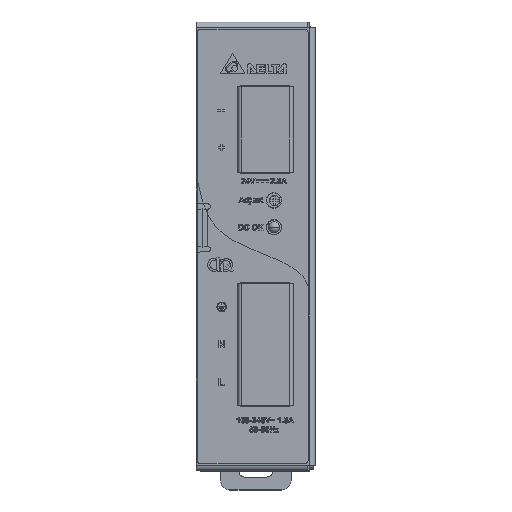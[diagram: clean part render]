
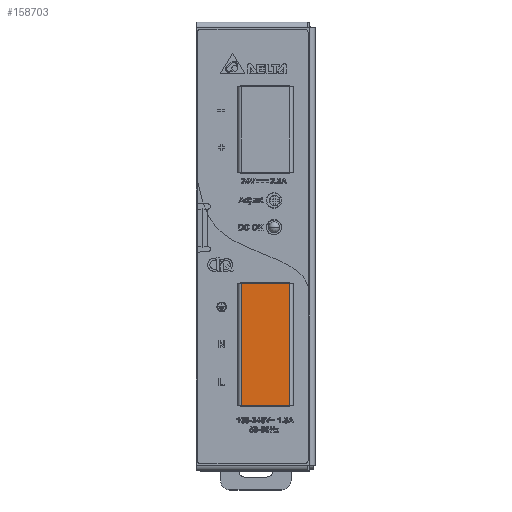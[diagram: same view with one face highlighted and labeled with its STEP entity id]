
A CAD part, top view. The second image highlights one B-rep face of the part: STEP entity #158703.
In plain terms, the highlighted planar face has unit normal (0, 0, 1) as drawn and (0, 1, 0) by its records, which use the part's own axes.
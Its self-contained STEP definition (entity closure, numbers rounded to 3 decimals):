
#156824=DIRECTION('',(-1.,0.,0.));
#156825=VECTOR('',#156824,13.);
#156826=CARTESIAN_POINT('',(6.5,4.9,0.));
#156827=LINE('',#156826,#156825);
#157009=DIRECTION('',(-1.,0.,0.));
#157010=VECTOR('',#157009,13.);
#157011=CARTESIAN_POINT('',(6.5,4.9,-33.));
#157012=LINE('',#157011,#157010);
#157737=DIRECTION('',(0.,0.,-1.));
#157738=VECTOR('',#157737,33.);
#157739=CARTESIAN_POINT('',(-6.5,4.9,0.));
#157740=LINE('',#157739,#157738);
#157744=DIRECTION('',(0.,0.,-1.));
#157745=VECTOR('',#157744,33.);
#157746=CARTESIAN_POINT('',(6.5,4.9,0.));
#157747=LINE('',#157746,#157745);
#157799=CARTESIAN_POINT('',(-6.5,4.9,-33.));
#157801=VERTEX_POINT('',#157799);
#157802=CARTESIAN_POINT('',(-6.5,4.9,0.));
#157803=VERTEX_POINT('',#157802);
#157806=CARTESIAN_POINT('',(6.5,4.9,0.));
#157807=VERTEX_POINT('',#157806);
#157808=CARTESIAN_POINT('',(6.5,4.9,-33.));
#157809=VERTEX_POINT('',#157808);
#158692=CARTESIAN_POINT('',(7.5,4.9,0.));
#158693=DIRECTION('',(0.,1.,0.));
#158694=DIRECTION('',(-1.,0.,0.));
#158695=AXIS2_PLACEMENT_3D('',#158692,#158693,#158694);
#158696=PLANE('',#158695);
#158697=ORIENTED_EDGE('',*,*,#158013,.T.);
#158698=ORIENTED_EDGE('',*,*,#158051,.F.);
#158699=ORIENTED_EDGE('',*,*,#158687,.F.);
#158700=ORIENTED_EDGE('',*,*,#157977,.T.);
#158701=EDGE_LOOP('',(#158697,#158698,#158699,#158700));
#158702=FACE_OUTER_BOUND('',#158701,.F.);
#157977=EDGE_CURVE('',#157807,#157803,#156827,.T.);
#158013=EDGE_CURVE('',#157803,#157801,#157740,.T.);
#158051=EDGE_CURVE('',#157809,#157801,#157012,.T.);
#158687=EDGE_CURVE('',#157807,#157809,#157747,.T.);
#158703=ADVANCED_FACE('',(#158702),#158696,.T.);
